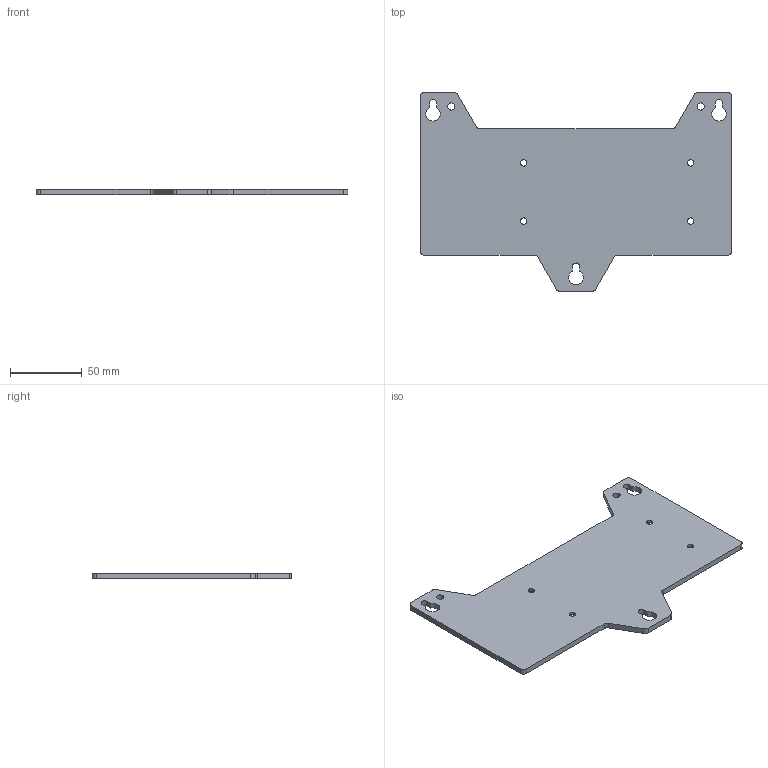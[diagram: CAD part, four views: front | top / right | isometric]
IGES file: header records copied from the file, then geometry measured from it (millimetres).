
Start section:  PTC IGES file: cu_panel_mount_smasher_4slot.igs
Global section: file name: cu_panel_mount_smasher_4slot.igs; native system: Creo Parametric by PTC Inc.; preprocessor: 2015380; author: jbuhisan; organization: Unknown; date: 20160607.114543; units: inch
Bounding box: 217.68 x 138.94 x 4 mm (x, y, z)
Surface area: 46528.7 mm2 (no closed solid volume)
Topology: 0 solids, 0 shells, 59 faces, 326 edges, 326 vertices
Faces by surface type: revolution 38, bspline 21
